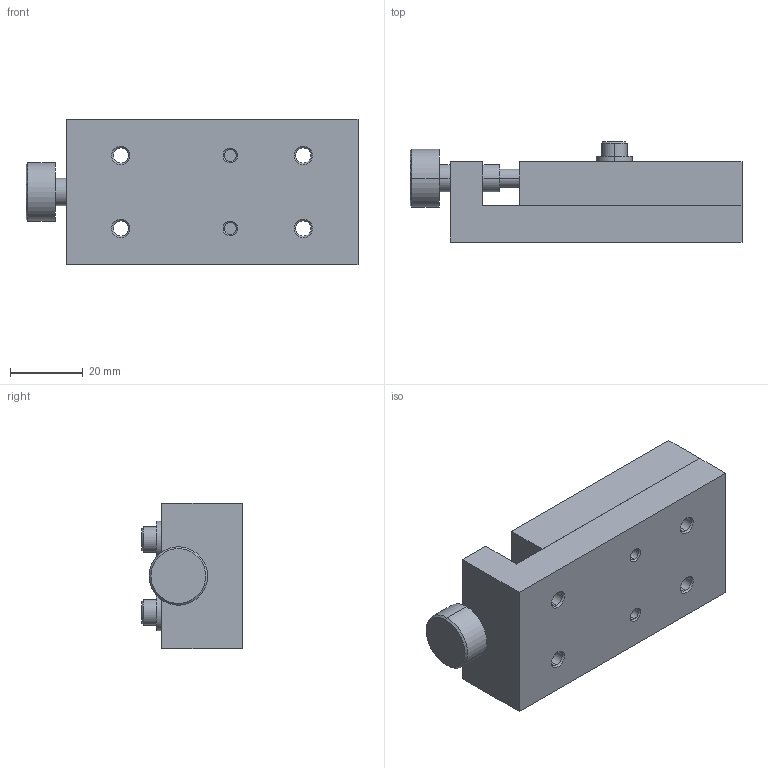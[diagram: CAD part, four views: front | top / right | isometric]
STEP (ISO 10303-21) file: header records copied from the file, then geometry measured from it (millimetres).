
FILE_DESCRIPTION (( 'STEP AP203' ), '1' );
FILE_NAME ('BHA40.STEP', '2024-03-04T02:01:03', ( 'China' ), ( 'Microsoft' ), 'SwSTEP 2.0', 'SolidWorks 2024', '' );
FILE_SCHEMA (( 'CONFIG_CONTROL_DESIGN' ));
Length unit declared in the file: millimetre
Products named in the file (1): BHA40
Bounding box: 91 x 27.5 x 40 mm (x, y, z)
Volume: 62063.1 mm3; surface area: 24455.4 mm2
Topology: 7 solids, 7 shells, 195 faces, 444 edges, 272 vertices
Faces by surface type: plane 74, cylinder 67, cone 54
Entity records: 5571 total; most frequent: DIRECTION 1028, CARTESIAN_POINT 908, ORIENTED_EDGE 880, EDGE_CURVE 440, AXIS2_PLACEMENT_3D 392, VERTEX_POINT 272, VECTOR 244, LINE 244
